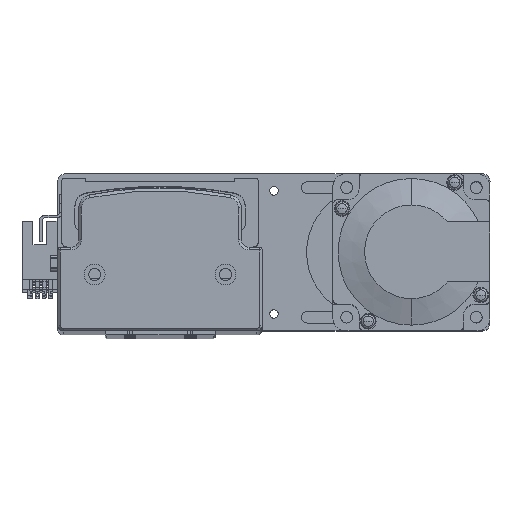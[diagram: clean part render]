
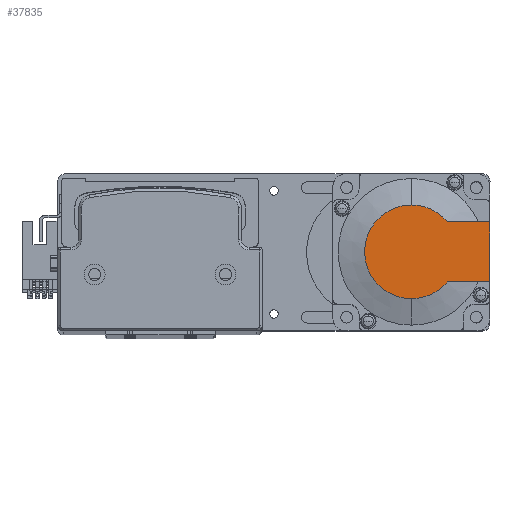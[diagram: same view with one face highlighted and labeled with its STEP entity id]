
A CAD part, top view. The second image highlights one B-rep face of the part: STEP entity #37835.
In plain terms, the highlighted planar face has unit normal (0, 0, 1) as drawn and (-1, 0, 0) by its records, which use the part's own axes.
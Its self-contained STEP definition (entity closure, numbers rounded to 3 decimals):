
#1529 = DIRECTION ( 'NONE',  ( -1., 0., 0. ) ) ;
#1806 = ORIENTED_EDGE ( 'NONE', *, *, #30441, .F. ) ;
#2523 = VERTEX_POINT ( 'NONE', #51351 ) ;
#3294 = CIRCLE ( 'NONE', #16376, 17.881 ) ;
#5037 = EDGE_CURVE ( 'NONE', #28451, #8787, #42937, .T. ) ;
#5712 = CARTESIAN_POINT ( 'NONE',  ( -118.5, 13.735, 11.45 ) ) ;
#5848 = VERTEX_POINT ( 'NONE', #33234 ) ;
#7882 = LINE ( 'NONE', #45899, #17262 ) ;
#8787 = VERTEX_POINT ( 'NONE', #5712 ) ;
#9243 = AXIS2_PLACEMENT_3D ( 'NONE', #44987, #21365, #48938 ) ;
#10005 = EDGE_CURVE ( 'NONE', #2523, #23325, #25953, .T. ) ;
#13448 = ORIENTED_EDGE ( 'NONE', *, *, #10005, .T. ) ;
#16376 = AXIS2_PLACEMENT_3D ( 'NONE', #43261, #19600, #47194 ) ;
#17262 = VECTOR ( 'NONE', #18292, 1000. ) ;
#17752 = DIRECTION ( 'NONE',  ( 0., 0., 1. ) ) ;
#18292 = DIRECTION ( 'NONE',  ( 0., -1., 0. ) ) ;
#19600 = DIRECTION ( 'NONE',  ( -1., 0., 0. ) ) ;
#21365 = DIRECTION ( 'NONE',  ( -1., 0., 0. ) ) ;
#22072 = CARTESIAN_POINT ( 'NONE',  ( -118.5, 0., 0. ) ) ;
#23325 = VERTEX_POINT ( 'NONE', #42506 ) ;
#25021 = CARTESIAN_POINT ( 'NONE',  ( -118.5, -8.941, -11.45 ) ) ;
#25123 = AXIS2_PLACEMENT_3D ( 'NONE', #22072, #49629, #26084 ) ;
#25388 = CARTESIAN_POINT ( 'NONE',  ( -118.5, -8.941, 0. ) ) ;
#25953 = LINE ( 'NONE', #25021, #36470 ) ;
#26084 = DIRECTION ( 'NONE',  ( 0., 0., -1. ) ) ;
#27348 = EDGE_LOOP ( 'NONE', ( #13448, #44869, #47689, #50478, #1806, #48349 ) ) ;
#28451 = VERTEX_POINT ( 'NONE', #30304 ) ;
#28968 = EDGE_CURVE ( 'NONE', #23325, #5848, #35956, .T. ) ;
#29253 = PLANE ( 'NONE',  #39806 ) ;
#29412 = DIRECTION ( 'NONE',  ( 0., 0., 1. ) ) ;
#29748 = CARTESIAN_POINT ( 'NONE',  ( -118.5, 30., 25. ) ) ;
#30265 = FACE_OUTER_BOUND ( 'NONE', #27348, .T. ) ;
#30304 = CARTESIAN_POINT ( 'NONE',  ( -118.5, 0., 17.881 ) ) ;
#30368 = EDGE_CURVE ( 'NONE', #2523, #49341, #31553, .T. ) ;
#30441 = EDGE_CURVE ( 'NONE', #49341, #8787, #7882, .T. ) ;
#31553 = LINE ( 'NONE', #29748, #42052 ) ;
#33234 = CARTESIAN_POINT ( 'NONE',  ( -118.5, 0., -17.881 ) ) ;
#35956 = CIRCLE ( 'NONE', #25123, 17.881 ) ;
#36470 = VECTOR ( 'NONE', #44677, 1000. ) ;
#37835 = ADVANCED_FACE ( 'NONE', ( #30265 ), #29253, .T. ) ;
#39806 = AXIS2_PLACEMENT_3D ( 'NONE', #25388, #1529, #29412 ) ;
#42052 = VECTOR ( 'NONE', #17752, 1000. ) ;
#42506 = CARTESIAN_POINT ( 'NONE',  ( -118.5, 13.735, -11.45 ) ) ;
#42937 = CIRCLE ( 'NONE', #9243, 17.881 ) ;
#43261 = CARTESIAN_POINT ( 'NONE',  ( -118.5, 0., 0. ) ) ;
#44677 = DIRECTION ( 'NONE',  ( 0., -1., 0. ) ) ;
#44869 = ORIENTED_EDGE ( 'NONE', *, *, #28968, .T. ) ;
#44987 = CARTESIAN_POINT ( 'NONE',  ( -118.5, 0., 0. ) ) ;
#45899 = CARTESIAN_POINT ( 'NONE',  ( -118.5, 0., 11.45 ) ) ;
#46794 = EDGE_CURVE ( 'NONE', #5848, #28451, #3294, .T. ) ;
#47194 = DIRECTION ( 'NONE',  ( 0., 0., -1. ) ) ;
#47590 = CARTESIAN_POINT ( 'NONE',  ( -118.5, 30., 11.45 ) ) ;
#47689 = ORIENTED_EDGE ( 'NONE', *, *, #46794, .T. ) ;
#48349 = ORIENTED_EDGE ( 'NONE', *, *, #30368, .F. ) ;
#48938 = DIRECTION ( 'NONE',  ( 0., 0., -1. ) ) ;
#49341 = VERTEX_POINT ( 'NONE', #47590 ) ;
#49629 = DIRECTION ( 'NONE',  ( -1., 0., 0. ) ) ;
#50478 = ORIENTED_EDGE ( 'NONE', *, *, #5037, .T. ) ;
#51351 = CARTESIAN_POINT ( 'NONE',  ( -118.5, 30., -11.45 ) ) ;
